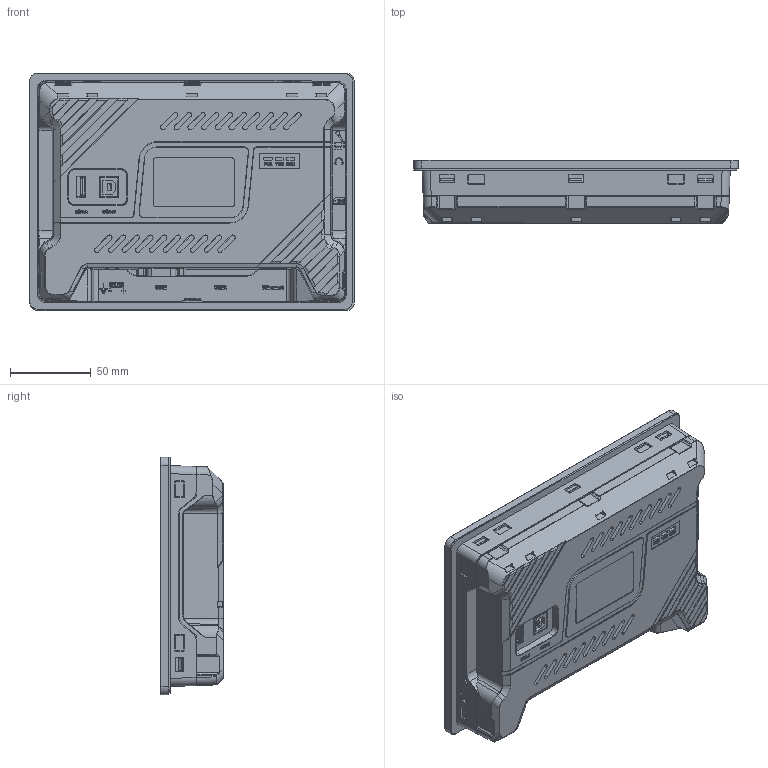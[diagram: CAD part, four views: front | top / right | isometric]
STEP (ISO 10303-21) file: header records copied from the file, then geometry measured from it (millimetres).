
FILE_DESCRIPTION((''),'2;1');
FILE_NAME('PI3070I','2020-02-14T11:48:42',('Administrator'),(''),'CREO PARAMETRIC BY PTC INC, 2018050','CREO PARAMETRIC BY PTC INC, 2018050','');
FILE_SCHEMA(('CONFIG_CONTROL_DESIGN'));
Products named in the file (1): PI3070I
Bounding box: 201.44 x 39 x 147.28 mm (x, y, z)
Volume: 775909.6 mm3; surface area: 216456.2 mm2
Topology: 1 solids, 106 shells, 4775 faces, 12540 edges, 8069 vertices
Faces by surface type: plane 2626, cylinder 1033, bspline 380, extrusion 355, torus 247, cone 127, sphere 7
Entity records: 170245 total; most frequent: CARTESIAN_POINT 56518, ORIENTED_EDGE 25072, DIRECTION 20997, EDGE_CURVE 12536, VECTOR 8331, VERTEX_POINT 8069, LINE 7976, AXIS2_PLACEMENT_3D 6333
